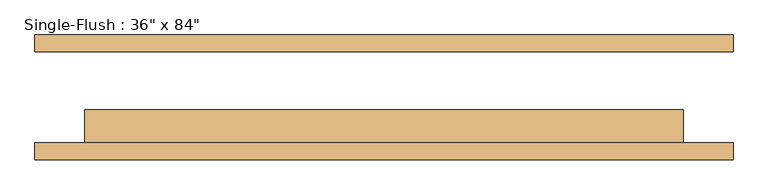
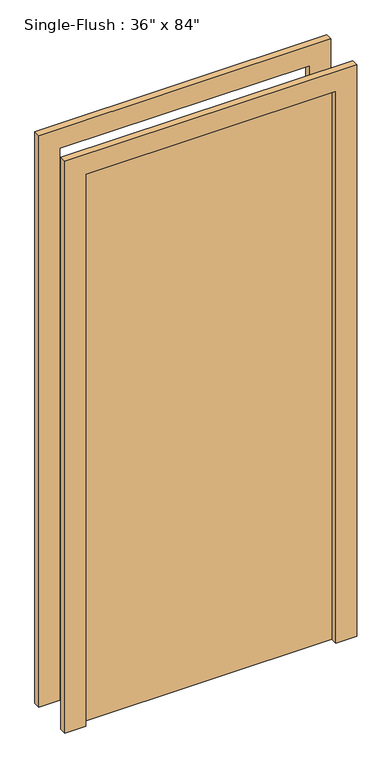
"""IFC4 building model written with IfcOpenShell, lengths in millimetres: door geometry."""

from ifc_helpers import new_model, si_unit, frame, origin, origin_with_axes, place, context, project, spatial, polyline, outline, extrude, source, transform, mapped, element, save


def door_9814c99b(model_context):
    return source(origin(), model_context, "Body", "SweptSolid", [
        extrude(outline(polyline([(2209.8, -533.4), (0.0, -533.4), (0.0, -457.2), (2133.6, -457.2), (2133.6, 457.2), (0.0, 457.2), (0.0, 533.4), (2209.8, 533.4), (2209.8, -533.4)])), frame((0.0, -95.25, 0.0), z_axis=(0.0, 1.0, 0.0), x_axis=(0.0, 0.0, 1.0)), (0.0, 0.0, 1.0), 25.4),
        extrude(outline(polyline([(2209.8, 533.4), (2209.8, -533.4), (0.0, -533.4), (0.0, -457.2), (2133.6, -457.2), (2133.6, 457.2), (0.0, 457.2), (0.0, 533.4), (2209.8, 533.4)])), frame((0.0, 69.85, 0.0), z_axis=(0.0, 1.0, 0.0), x_axis=(0.0, 0.0, 1.0)), (0.0, 0.0, 1.0), 25.4),
        extrude(outline(polyline([(457.2, -19.05), (457.2, -69.85), (-457.2, -69.85), (-457.2, -19.05), (457.2, -19.05)])), origin_with_axes(), (0.0, 0.0, 1.0), 2133.6),
    ])


if __name__ == "__main__":
    model = new_model("IFC4")
    model_context = context("Model", 3, world=origin())
    ifc_project = project(units=[si_unit("LENGTHUNIT", "METRE", prefix="MILLI")], contexts=[model_context])
    site = spatial("IfcSite", under=ifc_project)
    building = spatial("IfcBuilding", under=site)
    placement = place(None, origin())
    door_shape = door_9814c99b(model_context)
    element("IfcDoor", 1, ObjectType="Single-Flush : 36\" x 84\"", at=placement, inside=building, context=model_context, shape_type="MappedRepresentation", body=[
        mapped(door_shape, transform((0.0, 0.0, 0.0), x_axis=(1.0, 0.0, 0.0), y_axis=(0.0, 1.0, 0.0), z_axis=(0.0, 0.0, 1.0))),
    ])
    save(model, "model.ifc")
